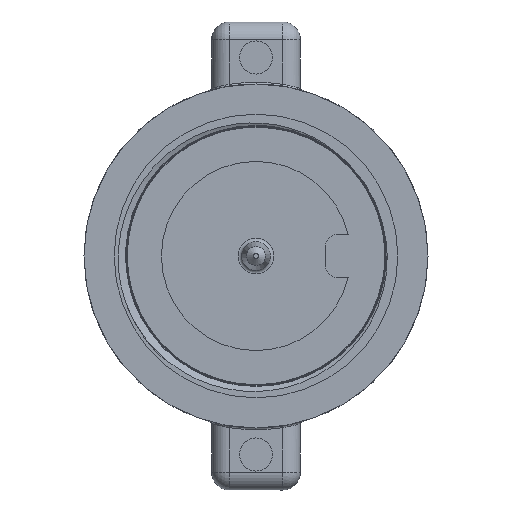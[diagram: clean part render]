
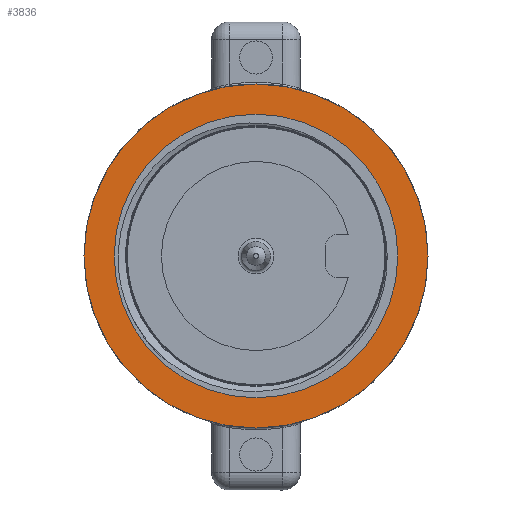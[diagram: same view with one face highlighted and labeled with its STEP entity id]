
A CAD part, front view. The second image highlights one B-rep face of the part: STEP entity #3836.
In plain terms, the highlighted planar face has unit normal (0, -1, 0).
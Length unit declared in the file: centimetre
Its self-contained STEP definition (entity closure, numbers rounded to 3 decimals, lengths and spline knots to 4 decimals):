
#426=PLANE('',#1938);
#853=VERTEX_POINT('',#4446);
#975=VERTEX_POINT('',#7949);
#1146=DIRECTION('',(0.,1.,0.));
#1147=DIRECTION('',(3.696,0.,0.));
#1383=DIRECTION('',(0.,1.,0.));
#1384=DIRECTION('',(3.048,0.,0.));
#1608=DIRECTION('',(0.,1.,0.));
#1741=AXIS2_PLACEMENT_3D('',#4445,#1146,#1147);
#1836=AXIS2_PLACEMENT_3D('',#7948,#1383,#1384);
#1938=AXIS2_PLACEMENT_3D('',#24786,#1608,$);
#2001=CIRCLE('',#1741,3.6957);
#2036=CIRCLE('',#1836,3.048);
#2153=EDGE_CURVE('',#853,#853,#2001,.T.);
#2338=EDGE_CURVE('',#975,#975,#2036,.T.);
#3235=ORIENTED_EDGE('',*,*,#2338,.T.);
#3236=ORIENTED_EDGE('',*,*,#2153,.F.);
#3498=EDGE_LOOP('',(#3235));
#3499=EDGE_LOOP('',(#3236));
#3675=FACE_BOUND('',#3498,.T.);
#3676=FACE_BOUND('',#3499,.T.);
#3836=ADVANCED_FACE('',(#3675,#3676),#426,.F.);
#4445=CARTESIAN_POINT('',(0.,-1.27,0.));
#4446=CARTESIAN_POINT('',(3.6957,-1.27,0.));
#7948=CARTESIAN_POINT('',(0.,-1.27,0.));
#7949=CARTESIAN_POINT('',(3.048,-1.27,0.));
#24786=CARTESIAN_POINT('',(0.,-1.27,0.));
